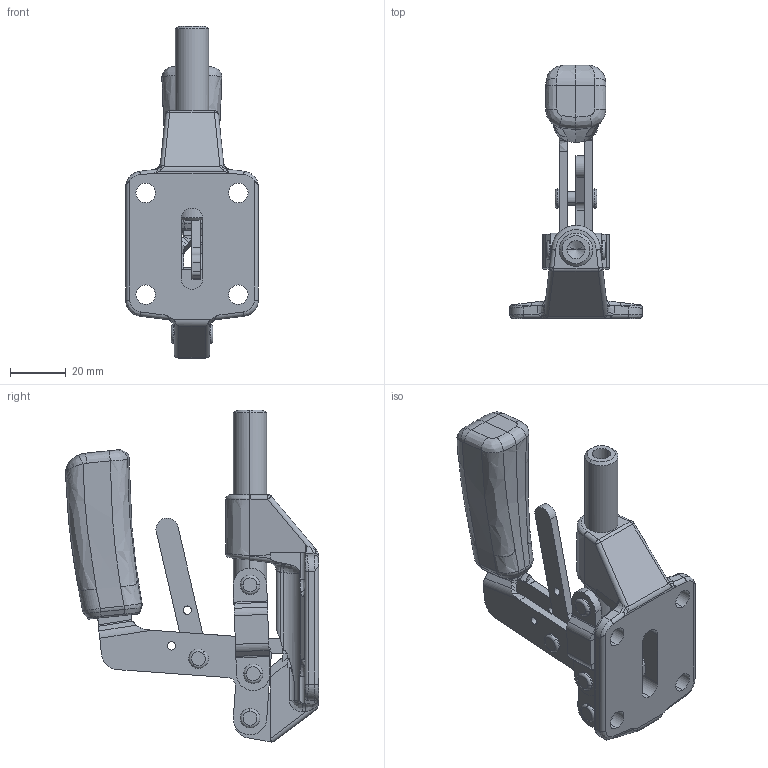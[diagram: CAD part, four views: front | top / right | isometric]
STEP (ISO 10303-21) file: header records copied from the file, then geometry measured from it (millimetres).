
FILE_DESCRIPTION (( 'STEP AP214' ), '1' );
FILE_NAME ('M64S-6.STEP', '2022-05-10T14:20:52', ( '' ), ( '' ), 'SwSTEP 2.0', 'SolidWorks 2015', '' );
FILE_SCHEMA (( 'AUTOMOTIVE_DESIGN' ));
Length unit declared in the file: millimetre
Products named in the file (10): M64S-6-18; M64S-6-16; M64S-6-1; M64S-6-13; M64S-6-11; M64S-6-8; M64S-6-14; M64S-6-15; M64S-6; M64S-6-4
Assembly tree (12 placements, depth 2):
  M64S-6
    M64S-6-4
    M64S-6-11
    M64S-6-8
    M64S-6-15  x2
    M64S-6-14
    M64S-6-13
    M64S-6-16  x2
    M64S-6-18  x2
    M64S-6-1
Bounding box: 47.75 x 90.97 x 119.33 mm (x, y, z)
Volume: 71582.6 mm3; surface area: 34465.3 mm2
Topology: 12 solids, 12 shells, 541 faces, 1304 edges, 788 vertices
Faces by surface type: plane 197, cylinder 190, bspline 132, torus 16, cone 6
Entity records: 28456 total; most frequent: CARTESIAN_POINT 15564, ORIENTED_EDGE 2310, DIRECTION 1616, EDGE_CURVE 1155, VERTEX_POINT 706, AXIS2_PLACEMENT_3D 585, EDGE_LOOP 513, ADVANCED_FACE 470
